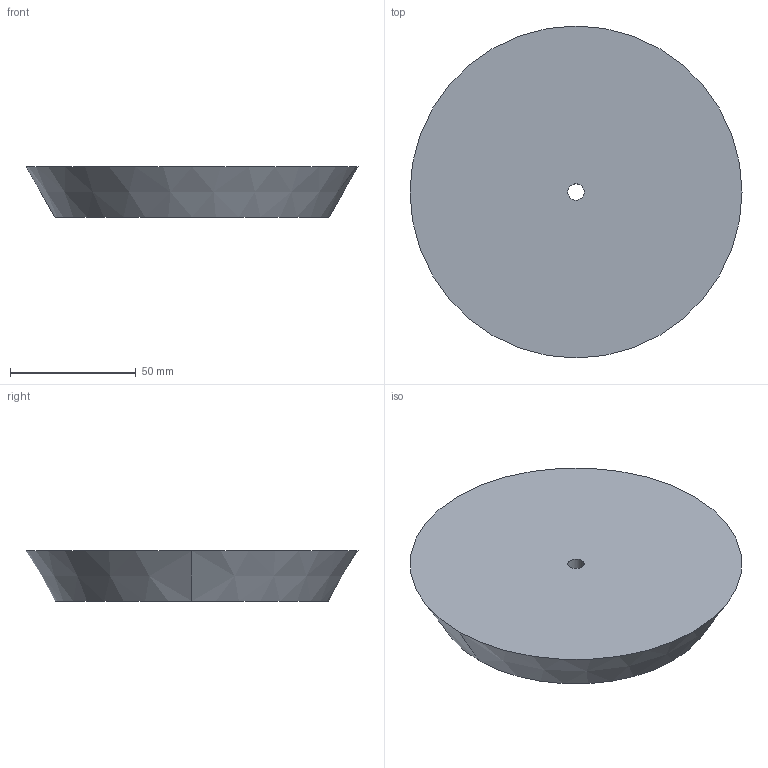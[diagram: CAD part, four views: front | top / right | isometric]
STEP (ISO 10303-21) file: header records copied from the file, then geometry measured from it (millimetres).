
FILE_DESCRIPTION(('CATIA V5 STEP Exchange'),'2;1');
FILE_NAME('C:\Users\andres.garcia\OneDrive - IQS\ASIGNATURAS\DAO\Controles\2223\c0\c1-GARCIA_Andrea-tapon.stp','2023-02-03T08:22:04+00:00',('none'),('none'),'CATIA Version 5-6 Release 2013 SP6','CATIA V5 STEP AP203','none');
FILE_SCHEMA(('CONFIG_CONTROL_DESIGN'));
Length unit declared in the file: millimetre
Products named in the file (1): c1-GARCIA_Andrea-tapon
Bounding box: 132 x 132 x 20 mm (x, y, z)
Volume: 227940.1 mm3; surface area: 32081.1 mm2
Topology: 1 solids, 1 shells, 6 faces, 12 edges, 8 vertices
Faces by surface type: cylinder 2, plane 2, cone 2
Entity records: 196 total; most frequent: CARTESIAN_POINT 26, ORIENTED_EDGE 24, DIRECTION 22, AXIS2_PLACEMENT_3D 14, EDGE_CURVE 12, CIRCLE 8, EDGE_LOOP 8, VERTEX_POINT 8
